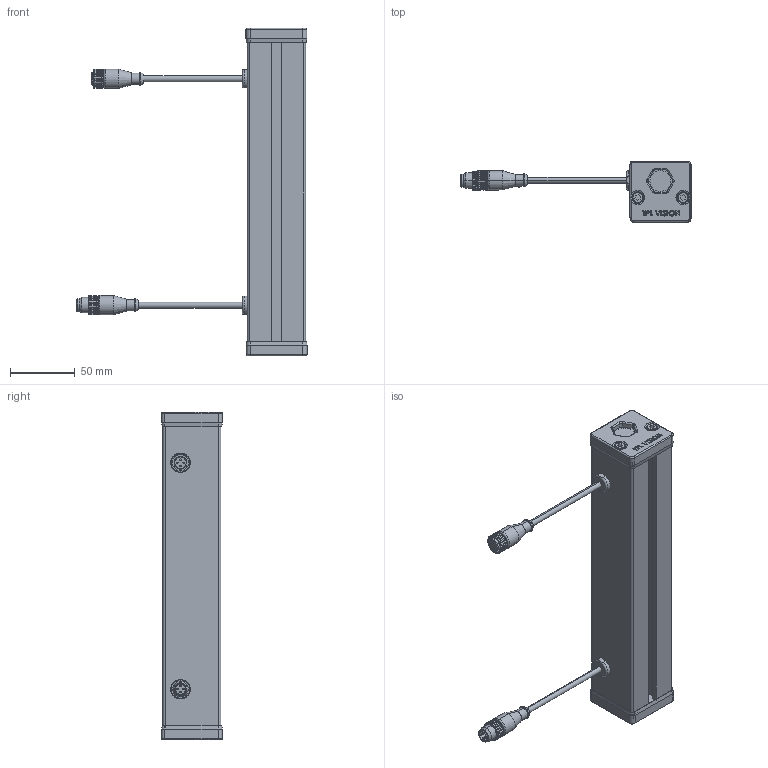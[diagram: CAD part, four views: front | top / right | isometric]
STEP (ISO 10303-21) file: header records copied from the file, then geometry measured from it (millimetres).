
FILE_DESCRIPTION (( 'STEP AP214' ), '1' );
FILE_NAME ('LRBAR.STEP', '2012-08-10T12:57:57', ( ' ' ), ( '' ), 'SwSTEP 2.0', 'SolidWorks 2009', '' );
FILE_SCHEMA (( 'AUTOMOTIVE_DESIGN' ));
Length unit declared in the file: millimetre
Products named in the file (1): LRBAR
Bounding box: 177.85 x 47 x 253 mm (x, y, z)
Volume: 157080.1 mm3; surface area: 153453.5 mm2
Topology: 12 solids, 12 shells, 850 faces, 2170 edges, 1408 vertices
Faces by surface type: plane 332, cylinder 324, torus 94, bspline 58, cone 34, sphere 8
Entity records: 38995 total; most frequent: CARTESIAN_POINT 9167, ORIENTED_EDGE 4308, DIRECTION 4170, EDGE_CURVE 2154, AXIS2_PLACEMENT_3D 1527, VERTEX_POINT 1400, VECTOR 1116, LINE 1116
